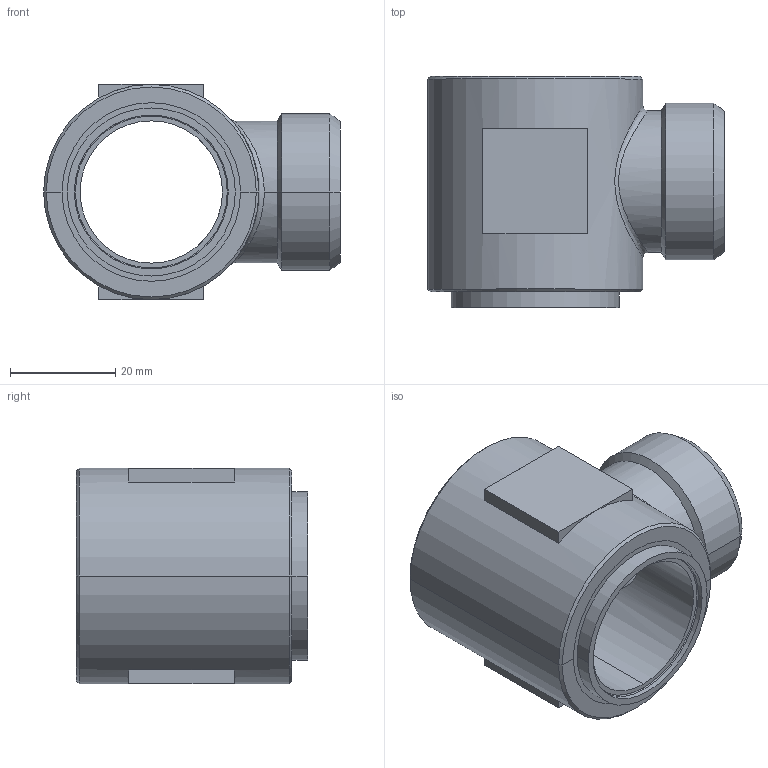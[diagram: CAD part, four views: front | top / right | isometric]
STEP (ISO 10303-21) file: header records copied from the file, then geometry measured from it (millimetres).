
FILE_DESCRIPTION((''),'2;1');
FILE_NAME('101320.stp','2007-10-30T15:39:24',(''),(''),'AutoCAD STEP 2000i','AutoCAD 2000i',', , ');
FILE_SCHEMA(('CONFIG_CONTROL_DESIGN'));
Length unit declared in the file: millimetre
Products named in the file (2): 101320.0; 1094#0
Assembly tree (1 placements, depth 2):
  101320.0
    1094#0
Bounding box: 56.5 x 44 x 41 mm (x, y, z)
Volume: 36420.6 mm3; surface area: 13494.3 mm2
Topology: 1 solids, 1 shells, 55 faces, 127 edges, 79 vertices
Faces by surface type: plane 20, cylinder 16, cone 14, bspline 5
Entity records: 2110 total; most frequent: CARTESIAN_POINT 725, DIRECTION 285, ORIENTED_EDGE 254, EDGE_CURVE 127, AXIS2_PLACEMENT_3D 115, VERTEX_POINT 79, EDGE_LOOP 64, CIRCLE 63
